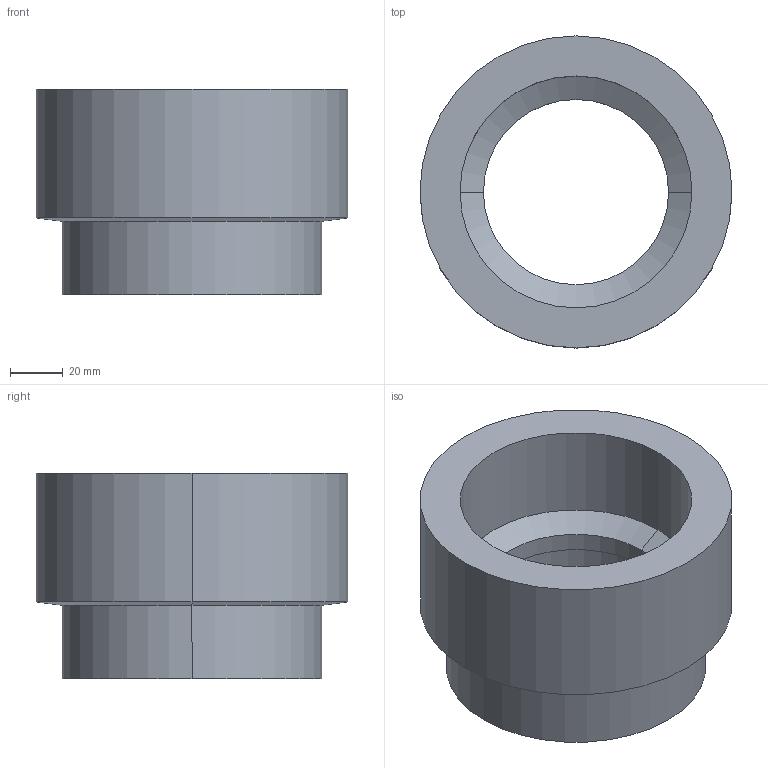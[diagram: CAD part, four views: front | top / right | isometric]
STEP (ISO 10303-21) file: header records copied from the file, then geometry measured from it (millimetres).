
FILE_DESCRIPTION (( 'STEP AP203' ), '1' );
FILE_NAME ('PMR23 FADO.STEP', '2022-08-23T10:56:12', ( '' ), ( '' ), 'SwSTEP 2.0', 'SolidWorks 2021', '' );
FILE_SCHEMA (( 'CONFIG_CONTROL_DESIGN' ));
Length unit declared in the file: millimetre
Products named in the file (1): PMR23 FADO
Bounding box: 118.8 x 118.8 x 78.21 mm (x, y, z)
Volume: 368342.4 mm3; surface area: 60176.8 mm2
Topology: 1 solids, 1 shells, 17 faces, 34 edges, 20 vertices
Faces by surface type: cylinder 10, cone 4, plane 3
Entity records: 525 total; most frequent: DIRECTION 90, CARTESIAN_POINT 72, ORIENTED_EDGE 68, AXIS2_PLACEMENT_3D 38, EDGE_CURVE 34, EDGE_LOOP 20, VERTEX_POINT 20, CIRCLE 20
